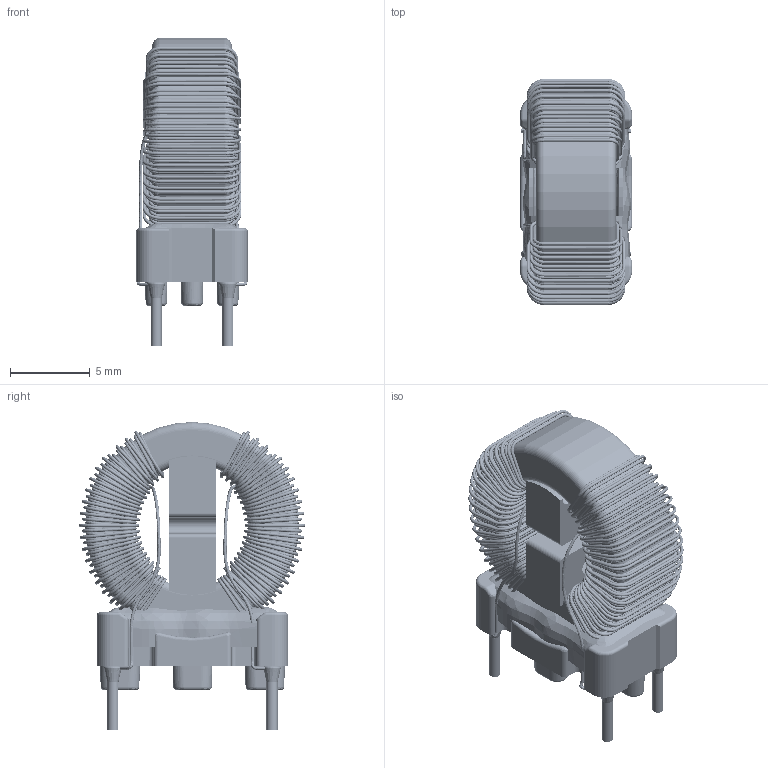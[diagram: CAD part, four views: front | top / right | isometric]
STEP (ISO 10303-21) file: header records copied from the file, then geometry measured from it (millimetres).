
FILE_DESCRIPTION(/* description */ ('Unknown'),/* implementation_level */ '2;1');
FILE_NAME(/* name */ 'L_Wurth_WE-CMB-XS_L15W7.8H17.5',/* time_stamp */ '2024-10-11T16:19:39+08:00',/* author */ ('Unknown'),/* organization */ ('Unknown'),/* preprocessor_version */ 'ST-DEVELOPER v16.7',/* originating_system */ 'Solid Edge',/* authorisation */ 'Unknown');
FILE_SCHEMA (('AUTOMOTIVE_DESIGN {1 0 10303 214 3 1 1}'));
Length unit declared in the file: millimetre
Products named in the file (2): L_Wurth_WE-CMB-XS_L15W7.8H17.5
Assembly tree (1 placements, depth 2):
  L_Wurth_WE-CMB-XS_L15W7.8H17.5
    L_Wurth_WE-CMB-XS_L15W7.8H17.5
Bounding box: 7 x 14.2 x 19.34 mm (x, y, z)
Volume: 896.6 mm3; surface area: 2731.6 mm2
Topology: 14 solids, 18 shells, 1538 faces, 3538 edges, 2005 vertices
Faces by surface type: cylinder 713, bspline 368, torus 327, plane 117, cone 12, sphere 1
Full cylindrical faces by diameter (mm): 0.2 x596, 0.7 x12, 7.8 x1, 13 x1
Entity records: 70079 total; most frequent: CARTESIAN_POINT 34204, DIRECTION 4647, ORIENTED_EDGE 4006, EDGE_LOOP 2901, FACE_BOUND 2901, AXIS2_PLACEMENT_3D 2184, EDGE_CURVE 2003, VERTEX_POINT 1738
